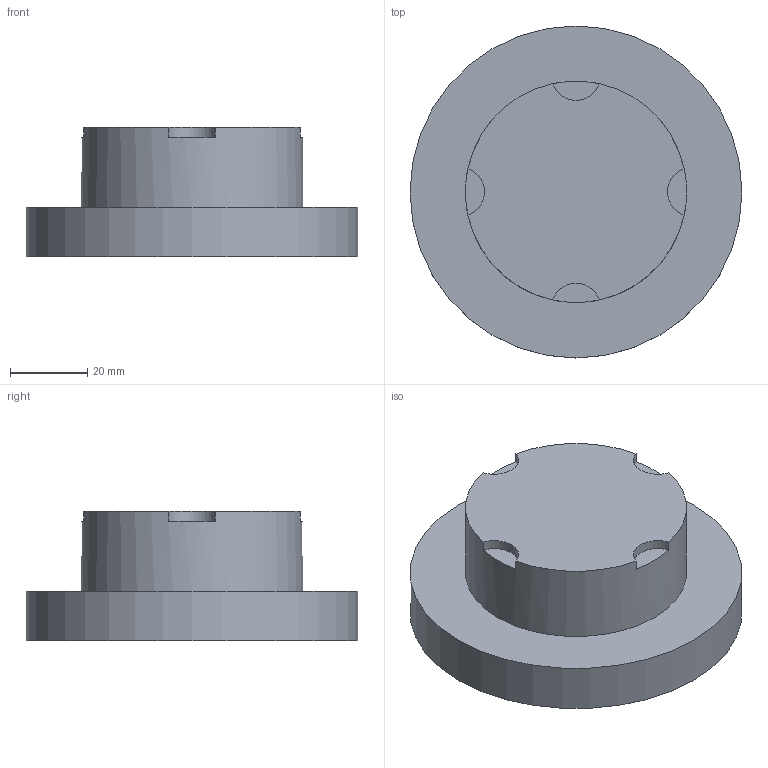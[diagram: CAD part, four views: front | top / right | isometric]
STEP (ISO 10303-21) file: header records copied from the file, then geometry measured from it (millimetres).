
FILE_DESCRIPTION(/* description */ ('Alibre Inc.'),/* implementation_level */ '2;1');
FILE_NAME(/* name */ 'export0',/* time_stamp */ '2013-01-13T14:34:45-05:00',/* author */ (''),/* organization */ (''),/* preprocessor_version */ 'ST-DEVELOPER v14',/* originating_system */ 'Alibre',/* authorisation */ '');
FILE_SCHEMA (('CONFIG_CONTROL_DESIGN'));
Length unit declared in the file: centimetre
Products named in the file (1): ID_1
Bounding box: 85.72 x 85.72 x 33.32 mm (x, y, z)
Volume: 72642.6 mm3; surface area: 25029.5 mm2
Topology: 1 solids, 1 shells, 63 faces, 147 edges, 90 vertices
Faces by surface type: plane 38, cylinder 17, cone 8
Full cylindrical faces by diameter (mm): 28.575 x1, 57.15 x1, 73.025 x1, 79.375 x1, 85.725 x1
Entity records: 1727 total; most frequent: CARTESIAN_POINT 300, ORIENTED_EDGE 280, DIRECTION 258, EDGE_CURVE 140, AXIS2_PLACEMENT_3D 113, VERTEX_POINT 88, EDGE_LOOP 72, FACE_BOUND 72
